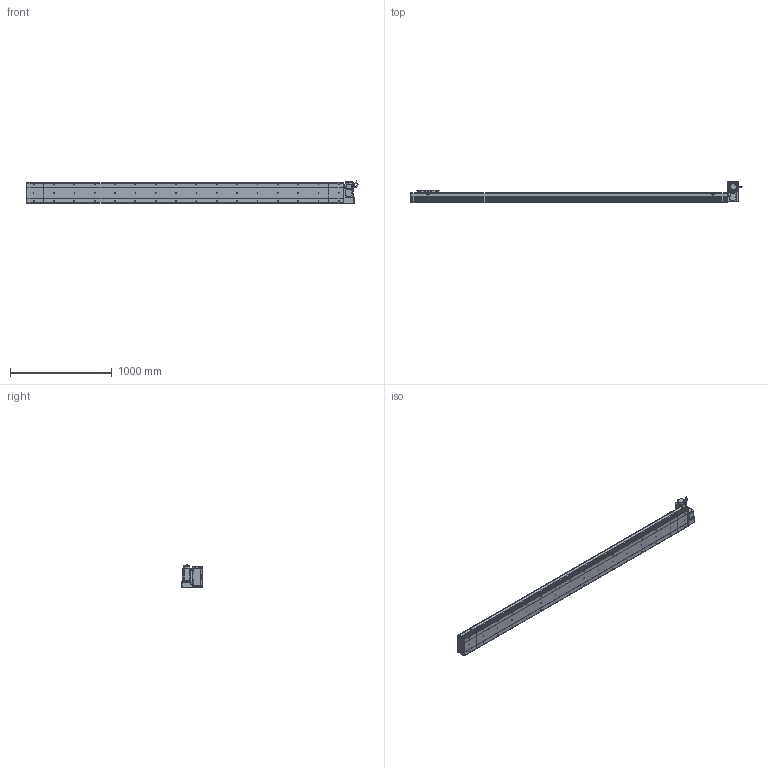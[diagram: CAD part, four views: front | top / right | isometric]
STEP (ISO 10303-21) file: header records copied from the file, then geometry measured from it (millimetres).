
FILE_DESCRIPTION (( 'STEP AP214' ), '1' );
FILE_NAME ('D20 CBH RT S2800.STEP', '2010-06-30T10:28:44', ( 'Conseil Régional Haute-Normandie' ), ( 'Conseil Régional Haute-Normandie' ), 'SwSTEP 2.0', 'SolidWorks 2010', '' );
FILE_SCHEMA (( 'AUTOMOTIVE_DESIGN' ));
Length unit declared in the file: millimetre
Products named in the file (31): D20 CBH RT S2800; Plaque De Serrage D20_Default; Plaque de Bout Tail D20_Default; Couvercle_Default; Corp Tail D20_Default; Tail D20_Default; Glissiere_Default; Chariot D20_Default; vis M5 L15_Default; Couvercle RT_Default; Corp Tail D20 RT_Default; Head RT_Default; Moteur motionking 90BLDC125A-640; Support moteur RT_Default; Plaque De Serrage D20 RT_Default; Plaque de Bout Head D20 RT_Default; corps 90BLDC125A-640; avant 90BLDC125A-640; vis M5 L30_Default; Conecteur_Default; Conecteur2_Default; codeur 90BLDC125-640; vis M5 L47_Default; Cache Support Moteur RT_Default; ecrou_Default; Corp S2800_Default; Corp D20 S2800_Default; Rondelle Cache D20 RT_Default; Support Chariot D20_Default; Couvercle S2800_Default
Assembly tree (68 placements, depth 4):
  D20 CBH RT S2800
    Head RT_Default
      Rondelle Cache D20 RT_Default  x3
      ecrou_Default  x4
      vis M5 L30_Default  x4
      Plaque de Bout Head D20 RT_Default
      Couvercle RT_Default
      vis M5 L15_Default  x14
      Moteur motionking 90BLDC125A-640
        avant 90BLDC125A-640
        Conecteur2_Default
        Conecteur_Default
        codeur 90BLDC125-640
        corps 90BLDC125A-640
      Corp Tail D20 RT_Default
      Plaque De Serrage D20 RT_Default
      vis M5 L47_Default  x4
      Cache Support Moteur RT_Default
      Support moteur RT_Default
    Corp D20 S2800_Default
      Couvercle S2800_Default
      Corp S2800_Default
    Chariot D20_Default
      Chariot D20_Default
      vis M5 L15_Default  x8
      Glissiere_Default
      Support Chariot D20_Default
    Tail D20_Default
      Corp Tail D20_Default
      vis M5 L15_Default  x6
      Plaque De Serrage D20_Default
      Plaque de Bout Tail D20_Default
      Couvercle_Default
Bounding box: 3264.45 x 206.5 x 229.7 mm (x, y, z)
Volume: 21978630.6 mm3; surface area: 4237801.8 mm2
Topology: 105 solids, 105 shells, 3853 faces, 9570 edges, 6214 vertices
Faces by surface type: plane 2140, bspline 806, cylinder 736, torus 95, cone 72, sphere 4
Entity records: 160382 total; most frequent: CARTESIAN_POINT 82469, ORIENTED_EDGE 15408, DIRECTION 11806, EDGE_CURVE 7704, VERTEX_POINT 5098, LINE 4960, VECTOR 4960, AXIS2_PLACEMENT_3D 3423
